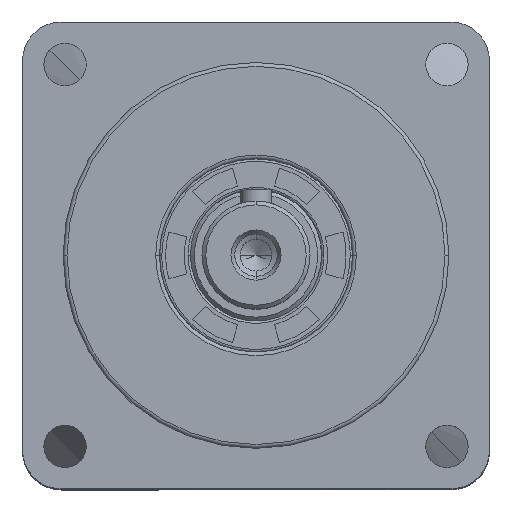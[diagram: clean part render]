
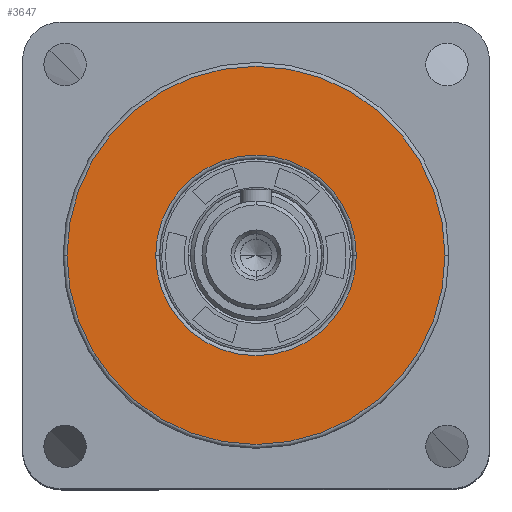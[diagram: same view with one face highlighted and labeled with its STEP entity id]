
A CAD part, top view. The second image highlights one B-rep face of the part: STEP entity #3647.
In plain terms, the highlighted planar face has unit normal (0, 0, 1).
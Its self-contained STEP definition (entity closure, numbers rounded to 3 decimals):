
#630 = VERTEX_POINT ( 'NONE', #3639 ) ;
#1088 = VERTEX_POINT ( 'NONE', #4019 ) ;
#1538 = CARTESIAN_POINT ( 'NONE',  ( -24.5, 0., 20.9 ) ) ;
#1612 = CIRCLE ( 'NONE', #15676, 24.5 ) ;
#2467 = FACE_OUTER_BOUND ( 'NONE', #12075, .T. ) ;
#2750 = CARTESIAN_POINT ( 'NONE',  ( 0., 0., 20.9 ) ) ;
#3639 = CARTESIAN_POINT ( 'NONE',  ( 24.5, 0., 20.9 ) ) ;
#3647 = ADVANCED_FACE ( 'NONE', ( #2467, #28218 ), #24213, .T. ) ;
#4005 = CARTESIAN_POINT ( 'NONE',  ( 0., 0., 20.9 ) ) ;
#4019 = CARTESIAN_POINT ( 'NONE',  ( -13., 0., 20.9 ) ) ;
#4372 = AXIS2_PLACEMENT_3D ( 'NONE', #25725, #20907, #21007 ) ;
#5550 = CIRCLE ( 'NONE', #4372, 24.5 ) ;
#5754 = EDGE_CURVE ( 'NONE', #630, #25031, #1612, .T. ) ;
#7640 = DIRECTION ( 'NONE',  ( 0., 0., 1. ) ) ;
#8435 = ORIENTED_EDGE ( 'NONE', *, *, #5754, .T. ) ;
#9213 = DIRECTION ( 'NONE',  ( 0., 0., 1. ) ) ;
#9892 = ORIENTED_EDGE ( 'NONE', *, *, #26702, .T. ) ;
#10728 = CIRCLE ( 'NONE', #22213, 13. ) ;
#10871 = DIRECTION ( 'NONE',  ( 0., 0., -1. ) ) ;
#11537 = ORIENTED_EDGE ( 'NONE', *, *, #21685, .T. ) ;
#12075 = EDGE_LOOP ( 'NONE', ( #8435, #9892 ) ) ;
#15676 = AXIS2_PLACEMENT_3D ( 'NONE', #17994, #7640, #25540 ) ;
#16091 = CIRCLE ( 'NONE', #28582, 13. ) ;
#16651 = DIRECTION ( 'NONE',  ( 1., 0., 0. ) ) ;
#17610 = DIRECTION ( 'NONE',  ( 0., 0., -1. ) ) ;
#17994 = CARTESIAN_POINT ( 'NONE',  ( 0., 0., 20.9 ) ) ;
#19510 = EDGE_LOOP ( 'NONE', ( #11537, #30036 ) ) ;
#20907 = DIRECTION ( 'NONE',  ( 0., 0., 1. ) ) ;
#21007 = DIRECTION ( 'NONE',  ( 1., 0., 0. ) ) ;
#21685 = EDGE_CURVE ( 'NONE', #25804, #1088, #10728, .T. ) ;
#22213 = AXIS2_PLACEMENT_3D ( 'NONE', #30762, #10871, #26402 ) ;
#24213 = PLANE ( 'NONE',  #32004 ) ;
#25031 = VERTEX_POINT ( 'NONE', #1538 ) ;
#25151 = DIRECTION ( 'NONE',  ( 1., 0., 0. ) ) ;
#25540 = DIRECTION ( 'NONE',  ( 1., 0., 0. ) ) ;
#25656 = EDGE_CURVE ( 'NONE', #1088, #25804, #16091, .T. ) ;
#25725 = CARTESIAN_POINT ( 'NONE',  ( 0., 0., 20.9 ) ) ;
#25804 = VERTEX_POINT ( 'NONE', #27939 ) ;
#26402 = DIRECTION ( 'NONE',  ( 1., 0., 0. ) ) ;
#26702 = EDGE_CURVE ( 'NONE', #25031, #630, #5550, .T. ) ;
#27939 = CARTESIAN_POINT ( 'NONE',  ( 13., 0., 20.9 ) ) ;
#28218 = FACE_BOUND ( 'NONE', #19510, .T. ) ;
#28582 = AXIS2_PLACEMENT_3D ( 'NONE', #2750, #17610, #25151 ) ;
#30036 = ORIENTED_EDGE ( 'NONE', *, *, #25656, .T. ) ;
#30762 = CARTESIAN_POINT ( 'NONE',  ( 0., 0., 20.9 ) ) ;
#32004 = AXIS2_PLACEMENT_3D ( 'NONE', #4005, #9213, #16651 ) ;
